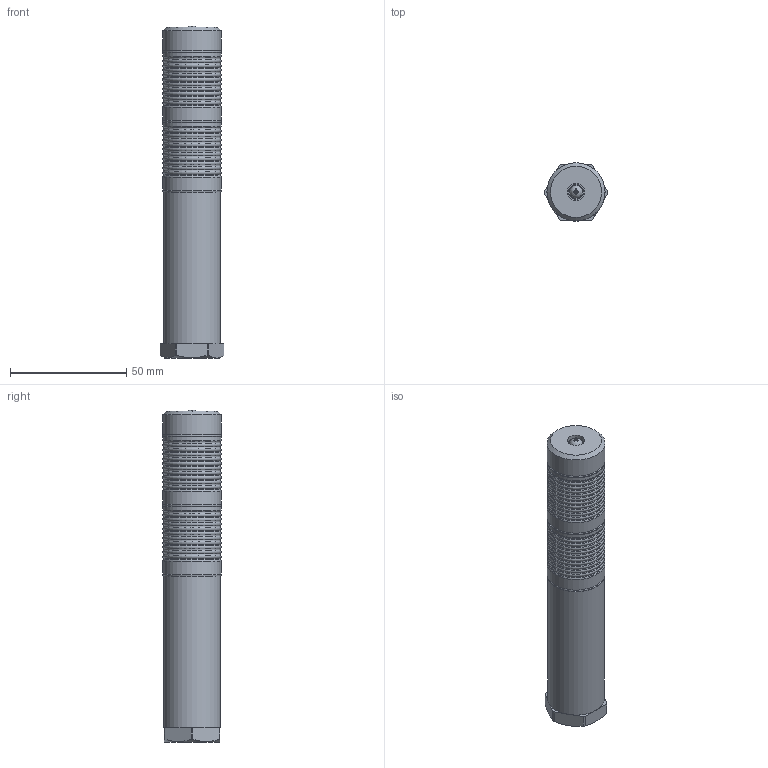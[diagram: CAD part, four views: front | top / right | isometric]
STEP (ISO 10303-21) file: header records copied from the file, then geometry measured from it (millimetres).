
FILE_DESCRIPTION(('STEP AP214'), '1');
FILE_NAME('TL25-024-RG', '', ('UNSPECIFIED'), ('UNSPECIFIED'), 'C3D Converter', 'C3D Toolkit', '');
FILE_SCHEMA(('AUTOMOTIVE_DESIGN { 1 0 10303 214 3 1 1}'));
Length unit declared in the file: millimetre
Products named in the file (9): -01
Assembly tree (10 placements, depth 2):
  (unnamed)
    (unnamed)
    (unnamed)
    (unnamed)  x3
    -01
    (unnamed)
    (unnamed)
    (unnamed)
    (unnamed)
Bounding box: 27.3 x 25 x 142.72 mm (x, y, z)
Volume: 46068.4 mm3; surface area: 23104.1 mm2
Topology: 10 solids, 10 shells, 117 faces, 246 edges, 146 vertices
Faces by surface type: torus 49, plane 43, cylinder 21, cone 3, sphere 1
Full cylindrical faces by diameter (mm): 2 x1, 3 x2, 5.5 x1, 6.5 x1, 7.5 x1, 16 x1, 20 x1, 20.752 x1, 24.5 x1, 25 x5
Entity records: 4078 total; most frequent: CARTESIAN_POINT 732, DIRECTION 532, ORIENTED_EDGE 350, AXIS2_PLACEMENT_3D 237, EDGE_LOOP 190, EDGE_CURVE 175, VERTEX_POINT 143, FACE_OUTER_BOUND 128
